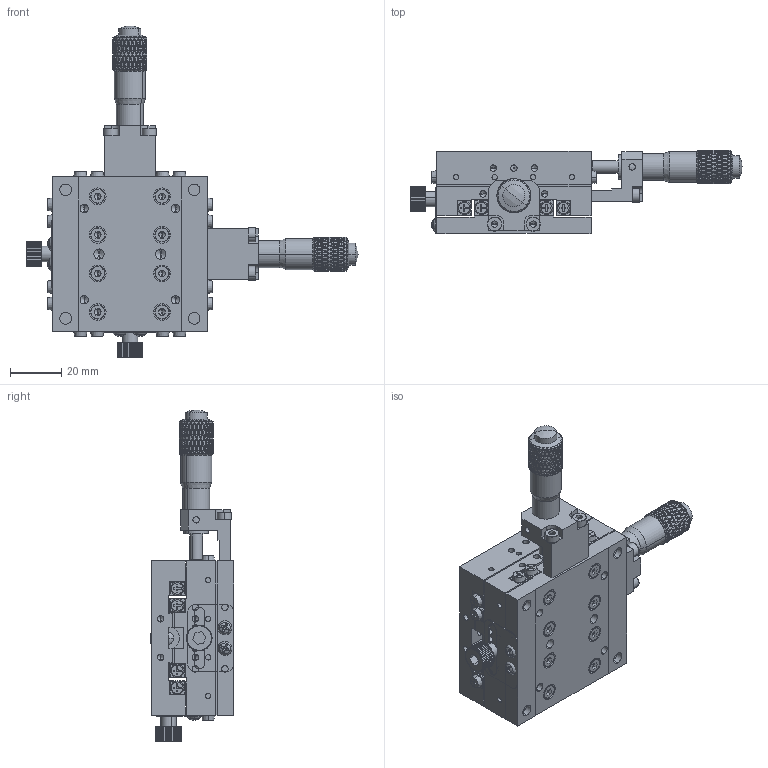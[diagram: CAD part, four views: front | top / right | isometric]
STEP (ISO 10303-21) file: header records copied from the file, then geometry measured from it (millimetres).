
FILE_DESCRIPTION (( 'STEP AP203' ), '1' );
FILE_NAME ('JCXY-60-CS.STEP', '2013-12-24T02:42:19', ( 'MMO' ), ( '' ), 'SwSTEP 2.0', 'SolidWorks 2013', '' );
FILE_SCHEMA (( 'CONFIG_CONTROL_DESIGN' ));
Length unit declared in the file: millimetre
Products named in the file (11): JALB-72-R; JCX-60-03-01; JCX-60-18T-007; JCX-60-20T-001; JCXY-60-CS; JCX-60-20T-002; JV2-60-11; socket head cap screw_ks_KS 1003 - M3 x 5 x 5-N; round cross head screw_ks_KS 1023 RC - M3 x 5-N; JCX-60-18T-006; JCX-60-20T-005
Assembly tree (43 placements, depth 2):
  JCXY-60-CS
    JCX-60-03-01
    JCX-60-20T-001
    JCX-60-20T-002
    JV2-60-11  x8
    socket head cap screw_ks_KS 1003 - M3 x 5 x 5-N  x20
    round cross head screw_ks_KS 1023 RC - M3 x 5-N  x4
    JCX-60-18T-006  x2
    JCX-60-20T-005  x2
    JALB-72-R  x2
    JCX-60-18T-007  x2
Bounding box: 129.1 x 32.6 x 129.1 mm (x, y, z)
Volume: 113596 mm3; surface area: 69399.9 mm2
Topology: 43 solids, 43 shells, 4708 faces, 10942 edges, 6312 vertices
Faces by surface type: bspline 1664, cylinder 1454, plane 1142, cone 292, torus 136, sphere 20
Entity records: 72954 total; most frequent: CARTESIAN_POINT 34403, ORIENTED_EDGE 9054, DIRECTION 6007, EDGE_CURVE 4527, VERTEX_POINT 2664, AXIS2_PLACEMENT_3D 2394, EDGE_LOOP 2225, ADVANCED_FACE 1980
